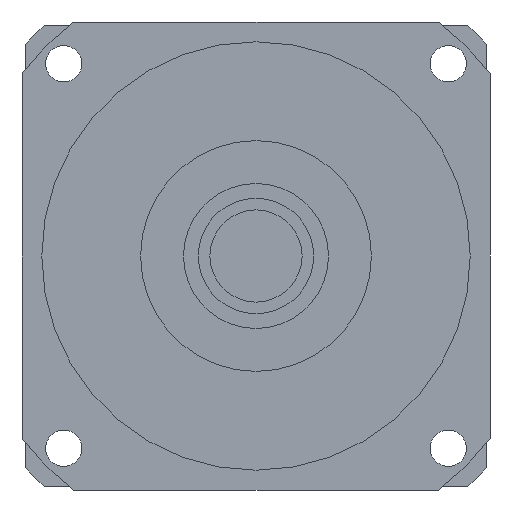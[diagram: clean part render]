
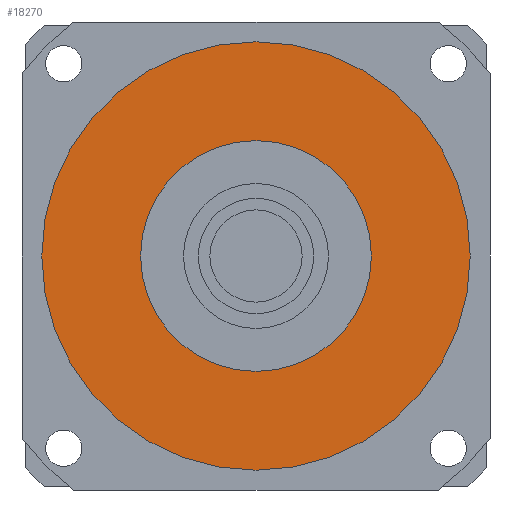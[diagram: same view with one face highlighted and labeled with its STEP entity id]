
A CAD part, left-side view. The second image highlights one B-rep face of the part: STEP entity #18270.
In plain terms, the highlighted planar face has unit normal (-1, 0, 0) as drawn and (0, 0, -1) by its records, which use the part's own axes.
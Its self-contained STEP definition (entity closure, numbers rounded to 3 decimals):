
#17690=CARTESIAN_POINT('',(65.,0.,-80.2));
#17700=VERTEX_POINT('',#17690);
#17790=CARTESIAN_POINT('',(-65.,0.,-80.2));
#17800=VERTEX_POINT('',#17790);
#17830=CARTESIAN_POINT('',(0.,0.,
-80.2));
#17840=DIRECTION('',(0.,0.,1.));
#17850=DIRECTION('',(0.,1.,0.));
#17860=AXIS2_PLACEMENT_3D('',#17830,#17840,#17850);
#17870=CIRCLE('',#17860,65.);
#17880=CARTESIAN_POINT('',(0.,65.,-80.2));
#17890=VERTEX_POINT('',#17880);
#17900=EDGE_CURVE('',#17890,#17800,#17870,.T.);
#17920=EDGE_CURVE('',#17700,#17890,#17870,.T.);
#17970=CARTESIAN_POINT('',(0.,0.,
-80.2));
#17980=DIRECTION('',(0.,0.,1.));
#17990=DIRECTION('',(-1.,0.,0.));
#18000=AXIS2_PLACEMENT_3D('',#17970,#17980,#17990);
#18010=PLANE('',#18000);
#18020=CARTESIAN_POINT('',(0.,0.,
-80.2));
#18030=DIRECTION('',(0.,0.,1.));
#18040=DIRECTION('',(0.,1.,0.));
#18050=AXIS2_PLACEMENT_3D('',#18020,#18030,#18040);
#18060=CIRCLE('',#18050,35.);
#18070=CARTESIAN_POINT('',(-35.,0.,-80.2));
#18080=VERTEX_POINT('',#18070);
#18090=CARTESIAN_POINT('',(35.,0.,-80.2));
#18100=VERTEX_POINT('',#18090);
#18110=EDGE_CURVE('',#18080,#18100,#18060,.T.);
#18120=ORIENTED_EDGE('',*,*,#18110,.T.);
#18130=CARTESIAN_POINT('',(0.,35.,-80.2));
#18140=VERTEX_POINT('',#18130);
#18150=EDGE_CURVE('',#18140,#18080,#18060,.T.);
#18160=ORIENTED_EDGE('',*,*,#18150,.T.);
#18170=EDGE_CURVE('',#18100,#18140,#18060,.T.);
#18180=ORIENTED_EDGE('',*,*,#18170,.T.);
#18190=EDGE_LOOP('',(#18180,#18160,#18120));
#18200=FACE_BOUND('',#18190,.T.);
#18210=ORIENTED_EDGE('',*,*,#17900,.F.);
#18220=EDGE_CURVE('',#17800,#17700,#17870,.T.);
#18230=ORIENTED_EDGE('',*,*,#18220,.F.);
#18240=ORIENTED_EDGE('',*,*,#17920,.F.);
#18250=EDGE_LOOP('',(#18240,#18230,#18210));
#18260=FACE_OUTER_BOUND('',#18250,.T.);
#18270=ADVANCED_FACE('',(#18200,#18260),#18010,.F.);
